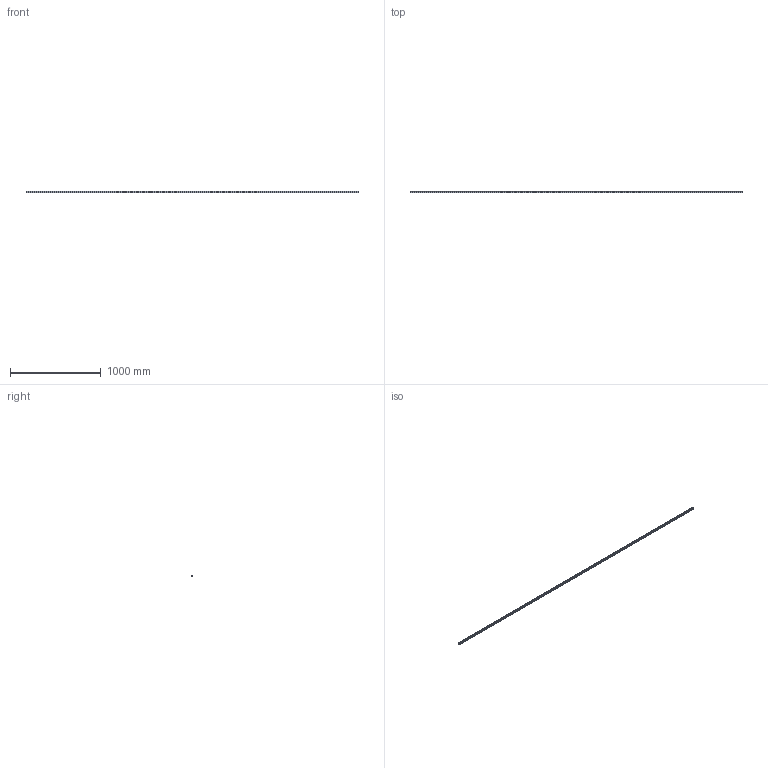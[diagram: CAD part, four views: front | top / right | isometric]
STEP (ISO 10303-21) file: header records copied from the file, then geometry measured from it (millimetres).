
FILE_DESCRIPTION (( 'STEP AP203' ), '1' );
FILE_NAME ('L1018.20R-3660.step', '2023-08-06T09:18:46', ( '' ), ( '' ), 'SwSTEP 2.0', 'SolidWorks 2019', '' );
FILE_SCHEMA (( 'CONFIG_CONTROL_DESIGN' ));
Length unit declared in the file: millimetre
Products named in the file (1): L1018.20R-3660
Bounding box: 3660 x 19.3 x 20 mm (x, y, z)
Volume: 1160689.5 mm3; surface area: 309525.8 mm2
Topology: 1 solids, 1 shells, 578 faces, 1301 edges, 725 vertices
Faces by surface type: cylinder 247, cone 244, plane 87
Entity records: 15272 total; most frequent: DIRECTION 2953, CARTESIAN_POINT 2483, ORIENTED_EDGE 2358, AXIS2_PLACEMENT_3D 1195, EDGE_CURVE 1179, VERTEX_POINT 725, EDGE_LOOP 700, CIRCLE 616
